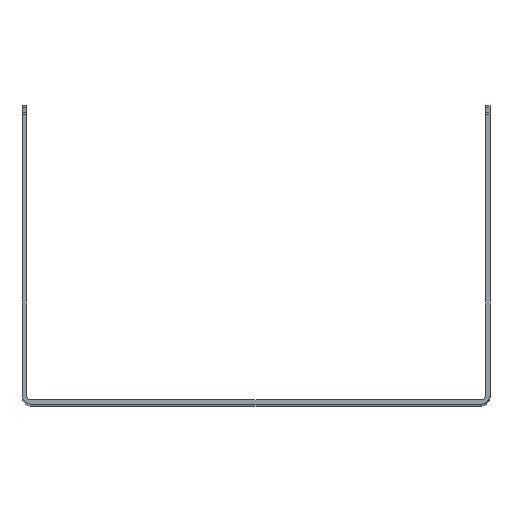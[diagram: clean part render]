
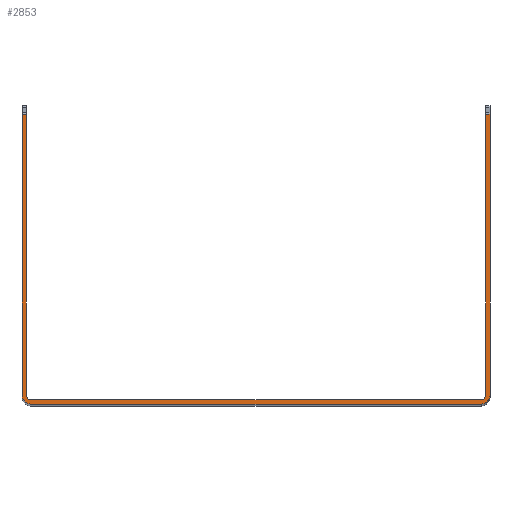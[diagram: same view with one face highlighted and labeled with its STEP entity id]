
A CAD part, top view. The second image highlights one B-rep face of the part: STEP entity #2853.
In plain terms, the highlighted planar face has unit normal (0, 0, 1).
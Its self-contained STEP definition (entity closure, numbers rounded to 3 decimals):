
#863=DIRECTION('',(-1.,0.,0.));
#864=VECTOR('',#863,2.5);
#865=CARTESIAN_POINT('',(132.5,164.,325.));
#866=LINE('',#865,#864);
#867=DIRECTION('',(0.,1.,0.));
#868=VECTOR('',#867,159.);
#869=CARTESIAN_POINT('',(132.5,5.,325.));
#870=LINE('',#869,#868);
#871=CARTESIAN_POINT('',(127.5,5.,325.));
#872=DIRECTION('',(0.,0.,1.));
#873=DIRECTION('',(0.,-1.,0.));
#874=AXIS2_PLACEMENT_3D('',#871,#872,#873);
#876=DIRECTION('',(1.,0.,0.));
#877=VECTOR('',#876,255.);
#878=CARTESIAN_POINT('',(-127.5,0.,325.));
#879=LINE('',#878,#877);
#880=CARTESIAN_POINT('',(-127.5,5.,325.));
#881=DIRECTION('',(0.,0.,1.));
#882=DIRECTION('',(-1.,0.,0.));
#883=AXIS2_PLACEMENT_3D('',#880,#881,#882);
#885=DIRECTION('',(0.,-1.,0.));
#886=VECTOR('',#885,159.);
#887=CARTESIAN_POINT('',(-132.5,164.,325.));
#888=LINE('',#887,#886);
#889=DIRECTION('',(-1.,0.,0.));
#890=VECTOR('',#889,2.5);
#891=CARTESIAN_POINT('',(-130.,164.,325.));
#892=LINE('',#891,#890);
#893=DIRECTION('',(0.,1.,0.));
#894=VECTOR('',#893,159.);
#895=CARTESIAN_POINT('',(-130.,5.,325.));
#896=LINE('',#895,#894);
#897=CARTESIAN_POINT('',(-127.5,5.,325.));
#898=DIRECTION('',(0.,0.,-1.));
#899=DIRECTION('',(0.,-1.,0.));
#900=AXIS2_PLACEMENT_3D('',#897,#898,#899);
#902=DIRECTION('',(-1.,0.,0.));
#903=VECTOR('',#902,255.);
#904=CARTESIAN_POINT('',(127.5,2.5,325.));
#905=LINE('',#904,#903);
#906=CARTESIAN_POINT('',(127.5,5.,325.));
#907=DIRECTION('',(0.,0.,-1.));
#908=DIRECTION('',(1.,0.,0.));
#909=AXIS2_PLACEMENT_3D('',#906,#907,#908);
#911=DIRECTION('',(0.,-1.,0.));
#912=VECTOR('',#911,159.);
#913=CARTESIAN_POINT('',(130.,164.,325.));
#914=LINE('',#913,#912);
#1417=CARTESIAN_POINT('',(-132.5,5.,325.));
#1418=CARTESIAN_POINT('',(-127.5,0.,325.));
#1419=VERTEX_POINT('',#1417);
#1420=VERTEX_POINT('',#1418);
#1421=CARTESIAN_POINT('',(127.5,0.,325.));
#1422=VERTEX_POINT('',#1421);
#1423=CARTESIAN_POINT('',(132.5,5.,325.));
#1424=VERTEX_POINT('',#1423);
#1425=CARTESIAN_POINT('',(130.,5.,325.));
#1426=CARTESIAN_POINT('',(127.5,2.5,325.));
#1427=VERTEX_POINT('',#1425);
#1428=VERTEX_POINT('',#1426);
#1429=CARTESIAN_POINT('',(-127.5,2.5,325.));
#1430=VERTEX_POINT('',#1429);
#1431=CARTESIAN_POINT('',(-130.,5.,325.));
#1432=VERTEX_POINT('',#1431);
#1593=CARTESIAN_POINT('',(130.,164.,325.));
#1595=VERTEX_POINT('',#1593);
#1599=CARTESIAN_POINT('',(132.5,164.,325.));
#1600=VERTEX_POINT('',#1599);
#1601=CARTESIAN_POINT('',(-132.5,164.,325.));
#1603=VERTEX_POINT('',#1601);
#1607=CARTESIAN_POINT('',(-130.,164.,325.));
#1608=VERTEX_POINT('',#1607);
#2828=CARTESIAN_POINT('',(0.,0.,325.));
#2829=DIRECTION('',(0.,0.,1.));
#2830=DIRECTION('',(1.,0.,0.));
#2831=AXIS2_PLACEMENT_3D('',#2828,#2829,#2830);
#2832=PLANE('',#2831);
#2834=ORIENTED_EDGE('',*,*,#2833,.F.);
#2836=ORIENTED_EDGE('',*,*,#2835,.F.);
#2838=ORIENTED_EDGE('',*,*,#2837,.F.);
#2839=ORIENTED_EDGE('',*,*,#2140,.F.);
#2840=ORIENTED_EDGE('',*,*,#2118,.F.);
#2841=ORIENTED_EDGE('',*,*,#2087,.F.);
#2843=ORIENTED_EDGE('',*,*,#2842,.F.);
#2844=ORIENTED_EDGE('',*,*,#1897,.F.);
#2845=ORIENTED_EDGE('',*,*,#2822,.F.);
#2846=ORIENTED_EDGE('',*,*,#2304,.F.);
#2848=ORIENTED_EDGE('',*,*,#2847,.F.);
#2850=ORIENTED_EDGE('',*,*,#2849,.F.);
#2851=EDGE_LOOP('',(#2834,#2836,#2838,#2839,#2840,#2841,#2843,#2844,#2845,#2846,
#2848,#2850));
#2852=FACE_OUTER_BOUND('',#2851,.F.);
#875=CIRCLE('',#874,5.);
#884=CIRCLE('',#883,5.);
#901=CIRCLE('',#900,2.5);
#910=CIRCLE('',#909,2.5);
#1897=EDGE_CURVE('',#1432,#1608,#896,.T.);
#2087=EDGE_CURVE('',#1603,#1419,#888,.T.);
#2118=EDGE_CURVE('',#1419,#1420,#884,.T.);
#2140=EDGE_CURVE('',#1420,#1422,#879,.T.);
#2304=EDGE_CURVE('',#1428,#1430,#905,.T.);
#2822=EDGE_CURVE('',#1430,#1432,#901,.T.);
#2833=EDGE_CURVE('',#1600,#1595,#866,.T.);
#2835=EDGE_CURVE('',#1424,#1600,#870,.T.);
#2837=EDGE_CURVE('',#1422,#1424,#875,.T.);
#2842=EDGE_CURVE('',#1608,#1603,#892,.T.);
#2847=EDGE_CURVE('',#1427,#1428,#910,.T.);
#2849=EDGE_CURVE('',#1595,#1427,#914,.T.);
#2853=ADVANCED_FACE('',(#2852),#2832,.T.);
